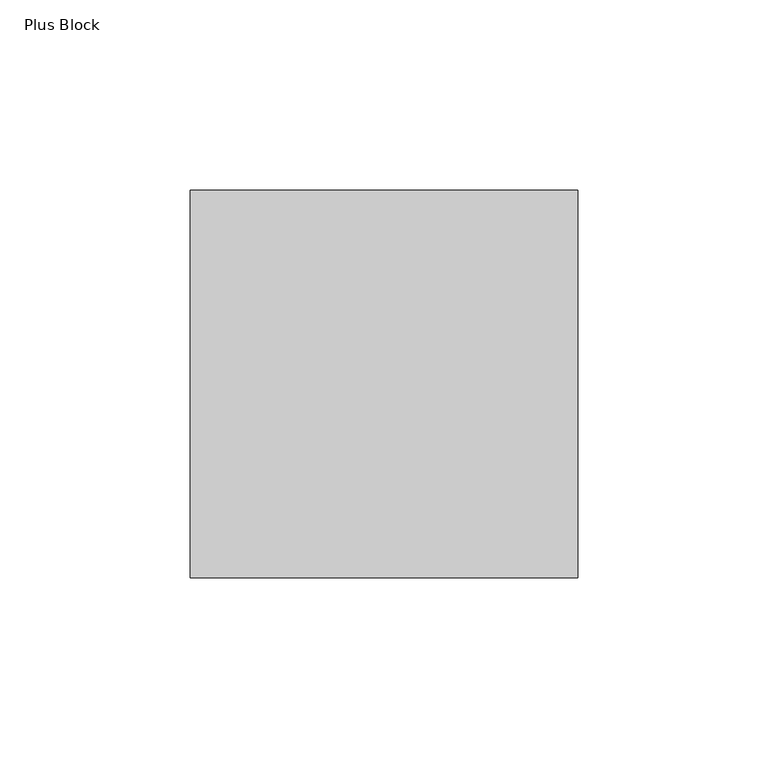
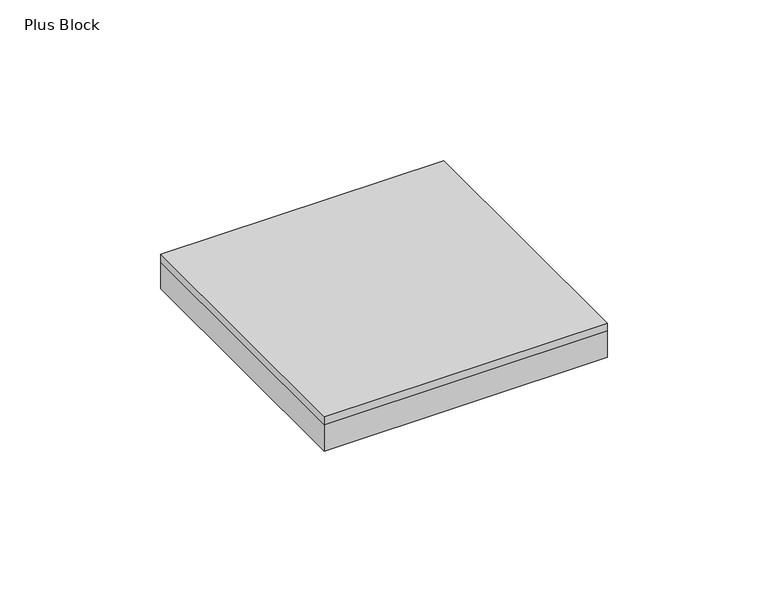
"""IFC4 building model written with IfcOpenShell, lengths in millimetres: proxy geometry, FilzFelt_Plus_Block : Plus Block."""

from ifc_helpers import new_model, si_unit, frame, origin, origin_with_axes, place, context, project, spatial, polyline, outline, extrude, source, transform, mapped, element, save


def plus_block_dd8ed9ce(model_context):
    return source(origin(), model_context, "Body", "SweptSolid", [
        extrude(outline(polyline([(-50.8333333, 152.5), (50.8333333, 152.5), (50.8333333, 50.8333333), (-50.8333333, 50.8333333), (-50.8333333, 152.5)])), frame((0.0, 0.0, 10.0210937), z_axis=(0.0, 0.0, 1.0), x_axis=(1.0, 0.0, 0.0)), (0.0, 0.0, 1.0), 2.9765625),
        extrude(outline(polyline([(-50.8333333, 152.5), (50.8333333, 152.5), (50.8333333, 50.8333333), (-50.8333333, 50.8333333), (-50.8333333, 152.5)])), origin_with_axes(), (0.0, 0.0, 1.0), 10.0210938),
    ])


if __name__ == "__main__":
    model = new_model("IFC4")
    model_context = context("Model", 3, world=origin())
    ifc_project = project(units=[si_unit("LENGTHUNIT", "METRE", prefix="MILLI")], contexts=[model_context])
    site = spatial("IfcSite", under=ifc_project)
    building = spatial("IfcBuilding", under=site)
    placement = place(None, origin())
    plus_block_shape = plus_block_dd8ed9ce(model_context)
    element("IfcBuildingElementProxy", 1, Name="FilzFelt_Plus_Block : Plus Block", ObjectType="FilzFelt_Plus_Block : Plus Block", at=placement, inside=building, context=model_context, shape_type="MappedRepresentation", body=[
        mapped(plus_block_shape, transform((0.0, 0.0, 0.0), x_axis=(1.0, 0.0, 0.0), y_axis=(0.0, 1.0, 0.0), z_axis=(0.0, 0.0, 1.0))),
    ])
    save(model, "model.ifc")
